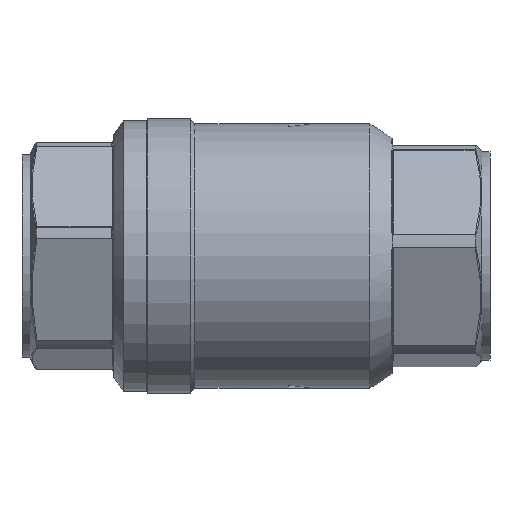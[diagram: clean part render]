
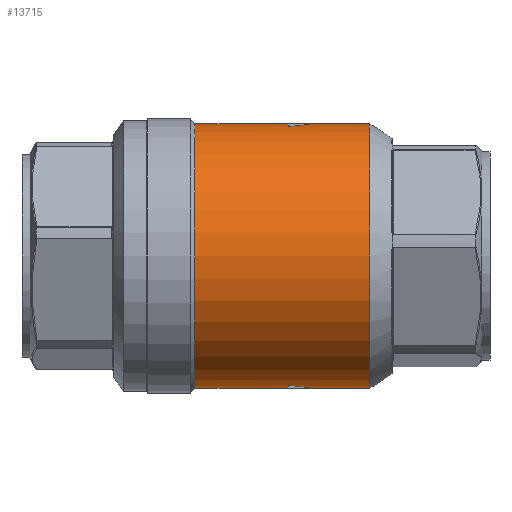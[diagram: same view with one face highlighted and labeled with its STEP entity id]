
A CAD part, front view. The second image highlights one B-rep face of the part: STEP entity #13715.
In plain terms, the highlighted cylindrical face has radius 16.497 mm (diameter 32.995 mm), a partial arc.
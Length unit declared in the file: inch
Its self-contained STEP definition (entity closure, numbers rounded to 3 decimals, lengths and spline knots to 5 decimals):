
#38 = DIRECTION ( 'NONE',  ( -1., 0., 0. ) ) ;
#265 = CARTESIAN_POINT ( 'NONE',  ( -0.3013, 0., 0. ) ) ;
#416 = CARTESIAN_POINT ( 'NONE',  ( 0.28808, 0., 0.6495 ) ) ;
#419 = VERTEX_POINT ( 'NONE', #416 ) ;
#499 = CARTESIAN_POINT ( 'NONE',  ( 0.15845, -0.05642, -0.64705 ) ) ;
#548 = ORIENTED_EDGE ( 'NONE', *, *, #8544, .T. ) ;
#606 = CARTESIAN_POINT ( 'NONE',  ( 0.56, 0., 0. ) ) ;
#621 = CARTESIAN_POINT ( 'NONE',  ( -0.13204, -0.05642, -0.64705 ) ) ;
#815 = VERTEX_POINT ( 'NONE', #621 ) ;
#849 = CYLINDRICAL_SURFACE ( 'NONE', #12145, 0.6495 ) ;
#886 = LINE ( 'NONE', #13950, #8069 ) ;
#986 = CARTESIAN_POINT ( 'NONE',  ( 0.15845, -0.05642, 0.64705 ) ) ;
#1066 = FACE_OUTER_BOUND ( 'NONE', #8695, .T. ) ;
#1103 = ORIENTED_EDGE ( 'NONE', *, *, #1649, .F. ) ;
#1410 = CARTESIAN_POINT ( 'NONE',  ( 0.15845, 0., 0. ) ) ;
#1649 = EDGE_CURVE ( 'NONE', #10347, #815, #10288, .T. ) ;
#1673 = CARTESIAN_POINT ( 'NONE',  ( -0.13204, 0., 0.6495 ) ) ;
#1730 = EDGE_CURVE ( 'NONE', #10189, #3352, #12200, .T. ) ;
#1768 = ORIENTED_EDGE ( 'NONE', *, *, #9366, .F. ) ;
#1808 = CARTESIAN_POINT ( 'NONE',  ( -0.3013, 0., -0.6495 ) ) ;
#1895 = VERTEX_POINT ( 'NONE', #1808 ) ;
#2232 = CARTESIAN_POINT ( 'NONE',  ( 0.15845, -0.13324, 0.63569 ) ) ;
#2360 = CARTESIAN_POINT ( 'NONE',  ( -2.21004, -0.05642, -0.64705 ) ) ;
#2560 = EDGE_CURVE ( 'NONE', #815, #4336, #4776, .T. ) ;
#2599 = DIRECTION ( 'NONE',  ( 0., 0., -1. ) ) ;
#2767 = CARTESIAN_POINT ( 'NONE',  ( 0.15845, 0., 0. ) ) ;
#3039 = EDGE_CURVE ( 'NONE', #5059, #13296, #6056, .T. ) ;
#3099 = DIRECTION ( 'NONE',  ( 0., 0., 1. ) ) ;
#3282 = DIRECTION ( 'NONE',  ( -1., 0., 0. ) ) ;
#3352 = VERTEX_POINT ( 'NONE', #11230 ) ;
#3648 = DIRECTION ( 'NONE',  ( -1., 0., 0. ) ) ;
#3711 = LINE ( 'NONE', #9349, #7171 ) ;
#3822 =( BOUNDED_CURVE ( )  B_SPLINE_CURVE ( 3, ( #8206, #3892, #7191, #11373 ),
 .UNSPECIFIED., .F., .F. ) 
 B_SPLINE_CURVE_WITH_KNOTS ( ( 4, 4 ),
 ( 4.71239, 4.919 ),
 .UNSPECIFIED. ) 
 CURVE ( )  GEOMETRIC_REPRESENTATION_ITEM ( )  RATIONAL_B_SPLINE_CURVE ( ( 1., 0.996, 0.996, 1. ) ) 
 REPRESENTATION_ITEM ( '' )  );
#3870 = CIRCLE ( 'NONE', #9166, 0.6495 ) ;
#3892 = CARTESIAN_POINT ( 'NONE',  ( 0.24448, -0.04481, 0.6495 ) ) ;
#3990 = ORIENTED_EDGE ( 'NONE', *, *, #5746, .F. ) ;
#4015 = LINE ( 'NONE', #9754, #12702 ) ;
#4041 = DIRECTION ( 'NONE',  ( 0., 0., -1. ) ) ;
#4122 = VERTEX_POINT ( 'NONE', #9095 ) ;
#4221 = CARTESIAN_POINT ( 'NONE',  ( 0.20112, -0.08938, -0.64488 ) ) ;
#4285 = CIRCLE ( 'NONE', #7939, 0.6495 ) ;
#4334 = VERTEX_POINT ( 'NONE', #1673 ) ;
#4336 = VERTEX_POINT ( 'NONE', #13890 ) ;
#4432 = EDGE_CURVE ( 'NONE', #11465, #5059, #8466, .T. ) ;
#4568 = DIRECTION ( 'NONE',  ( -1., 0., 0. ) ) ;
#4776 = CIRCLE ( 'NONE', #14034, 0.6495 ) ;
#4784 = VECTOR ( 'NONE', #3282, 39.37008 ) ;
#5031 = DIRECTION ( 'NONE',  ( -1., 0., 0. ) ) ;
#5059 = VERTEX_POINT ( 'NONE', #986 ) ;
#5259 = DIRECTION ( 'NONE',  ( -1., 0., 0. ) ) ;
#5286 = ORIENTED_EDGE ( 'NONE', *, *, #13283, .F. ) ;
#5439 = EDGE_CURVE ( 'NONE', #4334, #10264, #12064, .T. ) ;
#5746 = EDGE_CURVE ( 'NONE', #4122, #10347, #3870, .T. ) ;
#5903 = AXIS2_PLACEMENT_3D ( 'NONE', #606, #12843, #12697 ) ;
#5949 = VERTEX_POINT ( 'NONE', #11032 ) ;
#6056 = LINE ( 'NONE', #10430, #14246 ) ;
#6204 = DIRECTION ( 'NONE',  ( -1., 0., 0. ) ) ;
#6366 = CARTESIAN_POINT ( 'NONE',  ( -0.13204, -0.05642, 0.64705 ) ) ;
#6403 = CARTESIAN_POINT ( 'NONE',  ( -0.13204, 0., 0. ) ) ;
#7151 = EDGE_CURVE ( 'NONE', #3352, #419, #4015, .T. ) ;
#7171 = VECTOR ( 'NONE', #3648, 39.37008 ) ;
#7191 = CARTESIAN_POINT ( 'NONE',  ( 0.20112, -0.08938, 0.64488 ) ) ;
#7274 = CARTESIAN_POINT ( 'NONE',  ( -0.3013, 0., 0.6495 ) ) ;
#7414 = ORIENTED_EDGE ( 'NONE', *, *, #1730, .T. ) ;
#7672 = CARTESIAN_POINT ( 'NONE',  ( -0.13204, 0., 0. ) ) ;
#7939 = AXIS2_PLACEMENT_3D ( 'NONE', #6403, #5031, #11957 ) ;
#7946 = ORIENTED_EDGE ( 'NONE', *, *, #5439, .T. ) ;
#8069 = VECTOR ( 'NONE', #5259, 39.37008 ) ;
#8206 = CARTESIAN_POINT ( 'NONE',  ( 0.28808, 0., 0.6495 ) ) ;
#8411 =( BOUNDED_CURVE ( )  B_SPLINE_CURVE ( 3, ( #9728, #14141, #4221, #13070 ),
 .UNSPECIFIED., .F., .F. ) 
 B_SPLINE_CURVE_WITH_KNOTS ( ( 4, 4 ),
 ( 4.71239, 4.919 ),
 .UNSPECIFIED. ) 
 CURVE ( )  GEOMETRIC_REPRESENTATION_ITEM ( )  RATIONAL_B_SPLINE_CURVE ( ( 1., 0.996, 0.996, 1. ) ) 
 REPRESENTATION_ITEM ( '' )  );
#8466 = CIRCLE ( 'NONE', #10101, 0.6495 ) ;
#8544 = EDGE_CURVE ( 'NONE', #419, #11465, #3822, .T. ) ;
#8695 = EDGE_LOOP ( 'NONE', ( #13080, #7414, #12533, #548, #12918, #11312, #11355, #7946, #11092, #1768, #9471, #1103, #3990, #5286 ) ) ;
#8705 = DIRECTION ( 'NONE',  ( 1., 0., 0. ) ) ;
#8754 = CARTESIAN_POINT ( 'NONE',  ( -2.21004, 0., 0.6495 ) ) ;
#8846 = DIRECTION ( 'NONE',  ( 0., 0., 1. ) ) ;
#9095 = CARTESIAN_POINT ( 'NONE',  ( 0.15845, -0.13324, -0.63569 ) ) ;
#9166 = AXIS2_PLACEMENT_3D ( 'NONE', #1410, #11478, #13565 ) ;
#9349 = CARTESIAN_POINT ( 'NONE',  ( -2.21004, 0., -0.6495 ) ) ;
#9366 = EDGE_CURVE ( 'NONE', #4336, #1895, #3711, .T. ) ;
#9471 = ORIENTED_EDGE ( 'NONE', *, *, #2560, .F. ) ;
#9497 = AXIS2_PLACEMENT_3D ( 'NONE', #265, #13718, #2599 ) ;
#9540 = DIRECTION ( 'NONE',  ( -1., 0., 0. ) ) ;
#9636 = VECTOR ( 'NONE', #4568, 39.37008 ) ;
#9728 = CARTESIAN_POINT ( 'NONE',  ( 0.28808, 0., -0.6495 ) ) ;
#9754 = CARTESIAN_POINT ( 'NONE',  ( -2.21004, 0., 0.6495 ) ) ;
#9825 = DIRECTION ( 'NONE',  ( -1., 0., 0. ) ) ;
#10101 = AXIS2_PLACEMENT_3D ( 'NONE', #2767, #9540, #4041 ) ;
#10189 = VERTEX_POINT ( 'NONE', #11983 ) ;
#10264 = VERTEX_POINT ( 'NONE', #7274 ) ;
#10288 = LINE ( 'NONE', #2360, #9636 ) ;
#10347 = VERTEX_POINT ( 'NONE', #499 ) ;
#10430 = CARTESIAN_POINT ( 'NONE',  ( -2.21004, -0.05642, 0.64705 ) ) ;
#10618 = EDGE_CURVE ( 'NONE', #10264, #1895, #11603, .T. ) ;
#11032 = CARTESIAN_POINT ( 'NONE',  ( 0.28808, 0., -0.6495 ) ) ;
#11092 = ORIENTED_EDGE ( 'NONE', *, *, #10618, .T. ) ;
#11230 = CARTESIAN_POINT ( 'NONE',  ( 0.56, 0., 0.6495 ) ) ;
#11312 = ORIENTED_EDGE ( 'NONE', *, *, #3039, .T. ) ;
#11355 = ORIENTED_EDGE ( 'NONE', *, *, #13062, .T. ) ;
#11373 = CARTESIAN_POINT ( 'NONE',  ( 0.15845, -0.13324, 0.63569 ) ) ;
#11465 = VERTEX_POINT ( 'NONE', #2232 ) ;
#11478 = DIRECTION ( 'NONE',  ( 1., 0., 0. ) ) ;
#11603 = CIRCLE ( 'NONE', #9497, 0.6495 ) ;
#11957 = DIRECTION ( 'NONE',  ( 0., 0., -1. ) ) ;
#11983 = CARTESIAN_POINT ( 'NONE',  ( 0.56, 0., -0.6495 ) ) ;
#12064 = LINE ( 'NONE', #8754, #4784 ) ;
#12143 = CARTESIAN_POINT ( 'NONE',  ( -2.21004, 0., 0. ) ) ;
#12145 = AXIS2_PLACEMENT_3D ( 'NONE', #12143, #38, #3099 ) ;
#12200 = CIRCLE ( 'NONE', #5903, 0.6495 ) ;
#12533 = ORIENTED_EDGE ( 'NONE', *, *, #7151, .T. ) ;
#12697 = DIRECTION ( 'NONE',  ( 0., 0., 1. ) ) ;
#12702 = VECTOR ( 'NONE', #9825, 39.37008 ) ;
#12843 = DIRECTION ( 'NONE',  ( -1., 0., 0. ) ) ;
#12918 = ORIENTED_EDGE ( 'NONE', *, *, #4432, .T. ) ;
#13062 = EDGE_CURVE ( 'NONE', #13296, #4334, #4285, .T. ) ;
#13070 = CARTESIAN_POINT ( 'NONE',  ( 0.15845, -0.13324, -0.63569 ) ) ;
#13080 = ORIENTED_EDGE ( 'NONE', *, *, #13650, .F. ) ;
#13283 = EDGE_CURVE ( 'NONE', #5949, #4122, #8411, .T. ) ;
#13296 = VERTEX_POINT ( 'NONE', #6366 ) ;
#13565 = DIRECTION ( 'NONE',  ( 0., 0., 1. ) ) ;
#13650 = EDGE_CURVE ( 'NONE', #10189, #5949, #886, .T. ) ;
#13715 = ADVANCED_FACE ( 'NONE', ( #1066 ), #849, .T. ) ;
#13718 = DIRECTION ( 'NONE',  ( 1., 0., 0. ) ) ;
#13890 = CARTESIAN_POINT ( 'NONE',  ( -0.13204, 0., -0.6495 ) ) ;
#13950 = CARTESIAN_POINT ( 'NONE',  ( -2.21004, 0., -0.6495 ) ) ;
#14034 = AXIS2_PLACEMENT_3D ( 'NONE', #7672, #8705, #8846 ) ;
#14141 = CARTESIAN_POINT ( 'NONE',  ( 0.24448, -0.04481, -0.6495 ) ) ;
#14246 = VECTOR ( 'NONE', #6204, 39.37008 ) ;
